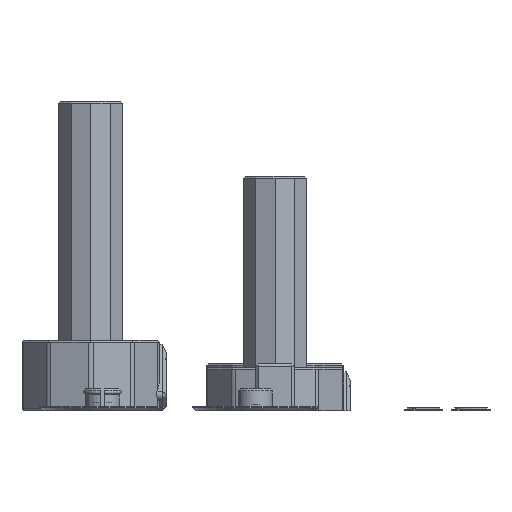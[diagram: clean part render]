
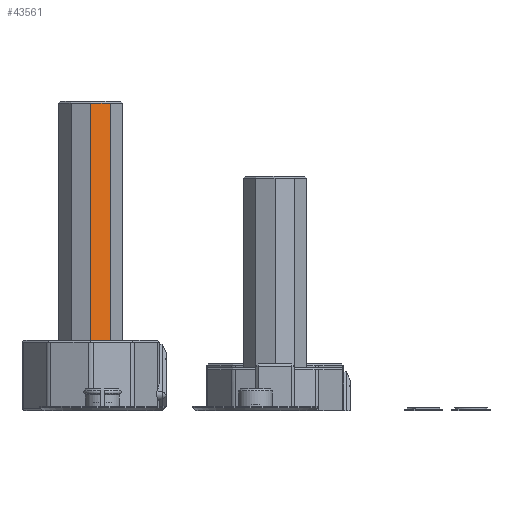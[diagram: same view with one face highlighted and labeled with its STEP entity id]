
A CAD part, left-side view. The second image highlights one B-rep face of the part: STEP entity #43561.
In plain terms, the highlighted planar face has unit normal (-0.951, -0.309, 0).
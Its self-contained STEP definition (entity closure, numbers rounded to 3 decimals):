
#4273=PLANE('',#45973);
#6890=FACE_OUTER_BOUND('',#9512,.T.);
#9512=EDGE_LOOP('',(#36998,#36999,#37000,#37001));
#12286=LINE('',#103504,#15890);
#12437=LINE('',#104067,#16041);
#12452=LINE('',#104099,#16056);
#12454=LINE('',#104103,#16058);
#15890=VECTOR('',#51470,10.);
#16041=VECTOR('',#51913,10.);
#16056=VECTOR('',#51952,10.);
#16058=VECTOR('',#51958,10.);
#20502=VERTEX_POINT('',#103501);
#20503=VERTEX_POINT('',#103503);
#20643=VERTEX_POINT('',#104057);
#20645=VERTEX_POINT('',#104066);
#26111=EDGE_CURVE('',#20502,#20503,#12286,.T.);
#26335=EDGE_CURVE('',#20645,#20643,#12437,.T.);
#26352=EDGE_CURVE('',#20643,#20502,#12452,.T.);
#26354=EDGE_CURVE('',#20645,#20503,#12454,.T.);
#36998=ORIENTED_EDGE('',*,*,#26354,.T.);
#36999=ORIENTED_EDGE('',*,*,#26111,.F.);
#37000=ORIENTED_EDGE('',*,*,#26352,.F.);
#37001=ORIENTED_EDGE('',*,*,#26335,.F.);
#43561=ADVANCED_FACE('',(#6890),#4273,.T.);
#45973=AXIS2_PLACEMENT_3D('',#104102,#51956,#51957);
#51470=DIRECTION('',(-0.309,0.951,0.));
#51913=DIRECTION('',(0.309,-0.951,0.));
#51952=DIRECTION('',(0.,0.,-1.));
#51956=DIRECTION('center_axis',(-0.951,-0.309,0.));
#51957=DIRECTION('ref_axis',(-0.309,0.951,0.));
#51958=DIRECTION('',(0.,0.,-1.));
#103501=CARTESIAN_POINT('',(-106.89,-5.006,18.));
#103503=CARTESIAN_POINT('',(-108.517,0.,18.));
#103504=CARTESIAN_POINT('',(-107.297,-3.755,18.));
#104057=CARTESIAN_POINT('',(-106.89,-5.006,78.5));
#104066=CARTESIAN_POINT('',(-108.517,0.,78.5));
#104067=CARTESIAN_POINT('',(-106.715,-5.546,78.5));
#104099=CARTESIAN_POINT('',(-106.89,-5.006,42.4));
#104102=CARTESIAN_POINT('Origin',(-106.89,-5.006,66.8));
#104103=CARTESIAN_POINT('',(-108.517,0.,42.4));
